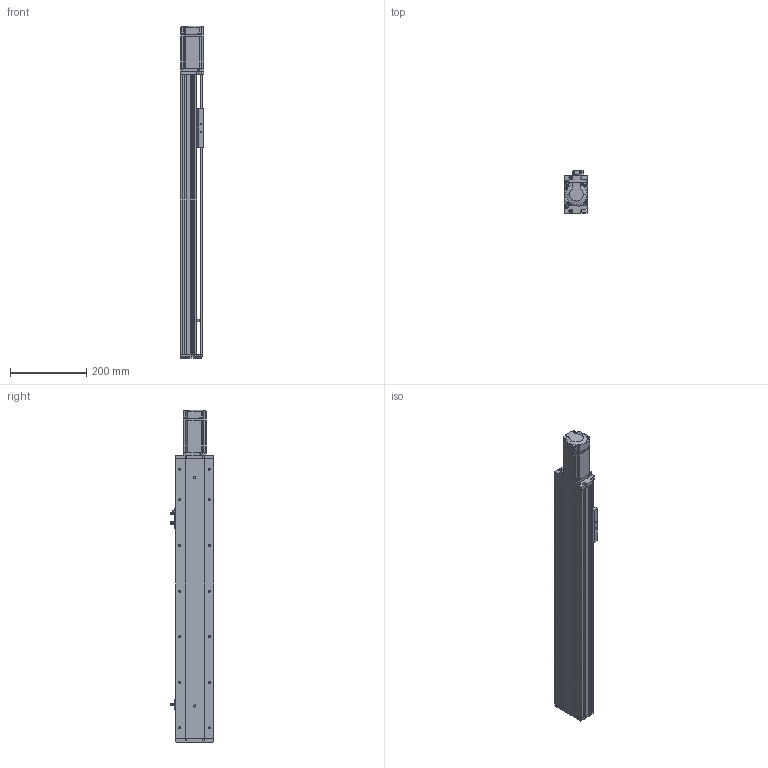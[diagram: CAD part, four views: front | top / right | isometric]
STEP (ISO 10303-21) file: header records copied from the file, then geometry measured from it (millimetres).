
FILE_DESCRIPTION (( 'STEP AP214' ), '1' );
FILE_NAME ('KSD100S-S500-MN-CM.STEP', '2019-08-30T07:04:07', ( '微软用户' ), ( '微软中国' ), 'SwSTEP 2.0', 'SolidWorks 2014', '' );
FILE_SCHEMA (( 'AUTOMOTIVE_DESIGN' ));
Length unit declared in the file: millimetre
Products named in the file (9): MHMD042G1CA_2_03; 覜茼え100遵圉猾敕; U倰嫖萇EEㄜSX672; 100宽防尘板丝杆500行程不带电机座; 100宽马达安装板不带电机座; 100宽滚珠螺姆安装板半封闭; 100遵傷啣; 100宽底板半封闭500行程丝杆不带电机座; KSD100S-S500-MN-CM
Assembly tree (10 placements, depth 2):
  KSD100S-S500-MN-CM
    100宽底板半封闭500行程丝杆不带电机座
    100遵傷啣
    100宽滚珠螺姆安装板半封闭
    100宽马达安装板不带电机座
    100宽防尘板丝杆500行程不带电机座
    U倰嫖萇EEㄜSX672  x3
    覜茼え100遵圉猾敕
    MHMD042G1CA_2_03
Bounding box: 62 x 113.7 x 873.5 mm (x, y, z)
Volume: 1509961.8 mm3; surface area: 582763.8 mm2
Topology: 9 solids, 10 shells, 1356 faces, 3887 edges, 2500 vertices
Faces by surface type: cylinder 601, plane 593, cone 144, bspline 18
Entity records: 50241 total; most frequent: CARTESIAN_POINT 9474, DIRECTION 6569, ORIENTED_EDGE 6290, EDGE_CURVE 3217, AXIS2_PLACEMENT_3D 2341, VERTEX_POINT 2124, LINE 1887, VECTOR 1887
